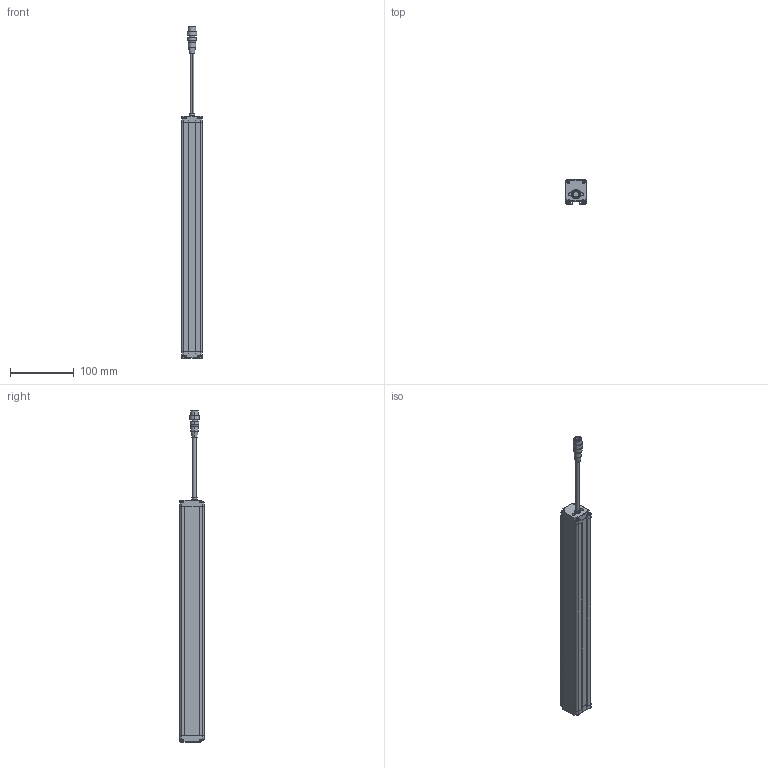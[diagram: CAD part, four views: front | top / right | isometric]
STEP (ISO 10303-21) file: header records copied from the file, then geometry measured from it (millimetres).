
FILE_DESCRIPTION((''),'2;1');
FILE_NAME('PRT0013','2026-03-31T10:14:59',('Administrator'),(''),'CREO PARAMETRIC BY PTC INC, 2016510','CREO PARAMETRIC BY PTC INC, 2016510','');
FILE_SCHEMA(('AUTOMOTIVE_DESIGN { 1 0 10303 214 1 1 1 1 }'));
Length unit declared in the file: millimetre
Products named in the file (1): PRT0013
Bounding box: 33 x 38 x 521.9 mm (x, y, z)
Surface area: 93024.2 mm2 (no closed solid volume)
Topology: 0 solids, 12 shells, 819 faces, 2212 edges, 1420 vertices
Faces by surface type: plane 388, cylinder 235, extrusion 88, sphere 40, torus 36, cone 28, bspline 4
Entity records: 32627 total; most frequent: CARTESIAN_POINT 6134, ORIENTED_EDGE 4336, DIRECTION 4076, EDGE_CURVE 2168, VERTEX_POINT 1420, AXIS2_PLACEMENT_3D 1393, VECTOR 1290, LINE 1202
